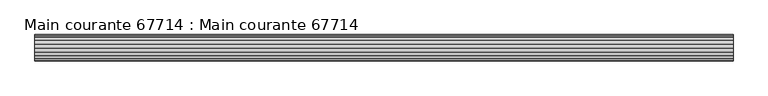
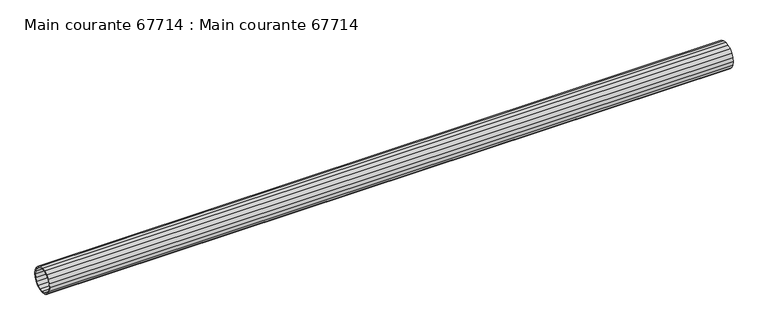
"""IFC4 building model written with IfcOpenShell, lengths in millimetres: beam geometry, Main courante 67714 : Main courante 67714."""

from ifc_helpers import new_model, si_unit, frame, origin, place, context, project, spatial, polyline, outline, extrude, source, transform, mapped, element, save


def main_courante_67714_main_courante_67714_b2ae646a(model_context):
    return source(origin(), model_context, "Body", "SweptSolid", [
        extrude(outline(polyline([(-35766.5, 8765.0), (-35765.3180149, 8772.4627604), (-35761.8877604, 8779.1950138), (-35756.5450138, 8784.5377604), (-35749.8127604, 8787.9680149), (-35742.35, 8789.15), (-35734.8872396, 8787.9680149), (-35728.1549862, 8784.5377604), (-35722.8122396, 8779.1950138), (-35719.3819851, 8772.4627604), (-35718.2, 8765.0), (-35719.3819851, 8757.5372396), (-35722.8122396, 8750.8049862), (-35728.1549862, 8745.4622396), (-35734.8872396, 8742.0319851), (-35742.35, 8740.85), (-35749.8127604, 8742.0319851), (-35756.5450138, 8745.4622396), (-35761.8877604, 8750.8049862), (-35765.3180149, 8757.5372396), (-35766.5, 8765.0)]), holes=[polyline([(-35720.7, 8765.0), (-35721.7596264, 8771.6902179), (-35724.8347821, 8777.7255507), (-35729.6244493, 8782.5152179), (-35735.6597821, 8785.5903736), (-35742.35, 8786.65), (-35749.0402179, 8785.5903736), (-35755.0755507, 8782.5152179), (-35759.8652179, 8777.7255507), (-35762.9403736, 8771.6902179), (-35764.0, 8765.0), (-35762.9403736, 8758.3097821), (-35759.8652179, 8752.2744493), (-35755.0755507, 8747.4847821), (-35749.0402179, 8744.4096264), (-35742.35, 8743.35), (-35735.6597821, 8744.4096264), (-35729.6244493, 8747.4847821), (-35724.8347821, 8752.2744493), (-35721.7596264, 8758.3097821), (-35720.7, 8765.0)])]), frame((14098.4999999, 0.0, 0.0), z_axis=(1.0, 0.0, 0.0), x_axis=(0.0, 1.0, 0.0)), (0.0, 0.0, 1.0), 1279.5),
    ])


if __name__ == "__main__":
    model = new_model("IFC4")
    model_context = context("Model", 3, world=origin())
    ifc_project = project(units=[si_unit("LENGTHUNIT", "METRE", prefix="MILLI")], contexts=[model_context])
    site = spatial("IfcSite", under=ifc_project)
    building = spatial("IfcBuilding", under=site)
    placement = place(None, origin())
    main_courante_67714_main_courante_67714_shape = main_courante_67714_main_courante_67714_b2ae646a(model_context)
    element("IfcBeam", 1, ObjectType="Main courante 67714 : Main courante 67714", at=placement, inside=building, context=model_context, shape_type="MappedRepresentation", body=[
        mapped(main_courante_67714_main_courante_67714_shape, transform((0.0, 0.0, 0.0), x_axis=(1.0, 0.0, 0.0), y_axis=(0.0, 1.0, 0.0), z_axis=(0.0, 0.0, 1.0))),
    ])
    save(model, "model.ifc")
